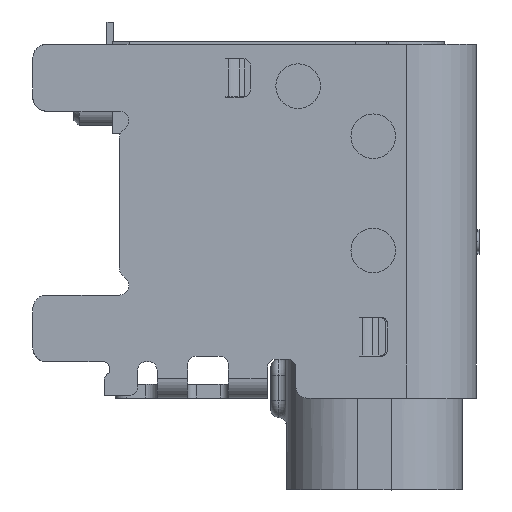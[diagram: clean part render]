
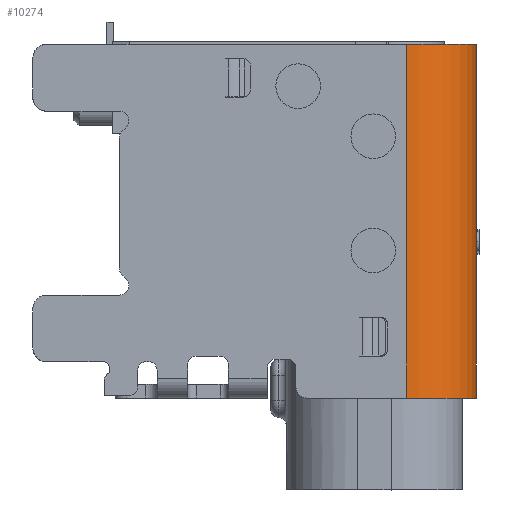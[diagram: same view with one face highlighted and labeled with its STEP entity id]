
A CAD part, left-side view. The second image highlights one B-rep face of the part: STEP entity #10274.
In plain terms, the highlighted cylindrical face has radius 1.25 mm (diameter 2.5 mm), a partial arc.
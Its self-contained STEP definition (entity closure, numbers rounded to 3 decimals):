
#1581 = DIRECTION ( 'NONE',  ( 0., 0., 1. ) ) ;
#2165 = CIRCLE ( 'NONE', #3843, 1.25 ) ;
#2494 = EDGE_CURVE ( 'NONE', #14512, #34913, #2165, .T. ) ;
#3843 = AXIS2_PLACEMENT_3D ( 'NONE', #25178, #25683, #40873 ) ;
#7179 = VERTEX_POINT ( 'NONE', #17066 ) ;
#10274 = ADVANCED_FACE ( 'NONE', ( #14705 ), #15740, .T. ) ;
#11788 = VECTOR ( 'NONE', #1581, 1000. ) ;
#12634 = CARTESIAN_POINT ( 'NONE',  ( 16.515, -0.505, -2.2 ) ) ;
#14512 = VERTEX_POINT ( 'NONE', #30093 ) ;
#14705 = FACE_OUTER_BOUND ( 'NONE', #40120, .T. ) ;
#15731 = EDGE_CURVE ( 'NONE', #7179, #40503, #37404, .T. ) ;
#15740 = CYLINDRICAL_SURFACE ( 'NONE', #25090, 1.25 ) ;
#17066 = CARTESIAN_POINT ( 'NONE',  ( 16.515, -1.755, -2.2 ) ) ;
#17478 = CARTESIAN_POINT ( 'NONE',  ( 15.265, -0.505, -2.2 ) ) ;
#18627 = CARTESIAN_POINT ( 'NONE',  ( 16.515, -0.505, -2.95 ) ) ;
#21793 = ORIENTED_EDGE ( 'NONE', *, *, #15731, .F. ) ;
#22800 = DIRECTION ( 'NONE',  ( 0., 0., -1. ) ) ;
#24494 = EDGE_CURVE ( 'NONE', #7179, #34913, #37640, .T. ) ;
#24536 = VECTOR ( 'NONE', #22800, 1000. ) ;
#25090 = AXIS2_PLACEMENT_3D ( 'NONE', #18627, #30643, #39027 ) ;
#25178 = CARTESIAN_POINT ( 'NONE',  ( 16.515, -0.505, 4.15 ) ) ;
#25683 = DIRECTION ( 'NONE',  ( 0., 0., 1. ) ) ;
#25862 = CARTESIAN_POINT ( 'NONE',  ( 16.515, -1.755, -2.2 ) ) ;
#27380 = ORIENTED_EDGE ( 'NONE', *, *, #2494, .F. ) ;
#28836 = DIRECTION ( 'NONE',  ( 0., 0., -1. ) ) ;
#30093 = CARTESIAN_POINT ( 'NONE',  ( 15.265, -0.505, 4.15 ) ) ;
#30643 = DIRECTION ( 'NONE',  ( 0., 0., -1. ) ) ;
#33505 = ORIENTED_EDGE ( 'NONE', *, *, #24494, .T. ) ;
#33549 = CARTESIAN_POINT ( 'NONE',  ( 15.265, -0.505, 4.15 ) ) ;
#33692 = EDGE_CURVE ( 'NONE', #14512, #40503, #33797, .T. ) ;
#33797 = LINE ( 'NONE', #33549, #24536 ) ;
#34913 = VERTEX_POINT ( 'NONE', #39224 ) ;
#36386 = ORIENTED_EDGE ( 'NONE', *, *, #33692, .T. ) ;
#37404 = CIRCLE ( 'NONE', #50765, 1.25 ) ;
#37640 = LINE ( 'NONE', #25862, #11788 ) ;
#39027 = DIRECTION ( 'NONE',  ( -1., 0., 0. ) ) ;
#39224 = CARTESIAN_POINT ( 'NONE',  ( 16.515, -1.755, 4.15 ) ) ;
#40120 = EDGE_LOOP ( 'NONE', ( #33505, #27380, #36386, #21793 ) ) ;
#40503 = VERTEX_POINT ( 'NONE', #17478 ) ;
#40873 = DIRECTION ( 'NONE',  ( -1., 0., 0. ) ) ;
#47944 = DIRECTION ( 'NONE',  ( 0., -1., 0. ) ) ;
#50765 = AXIS2_PLACEMENT_3D ( 'NONE', #12634, #28836, #47944 ) ;
